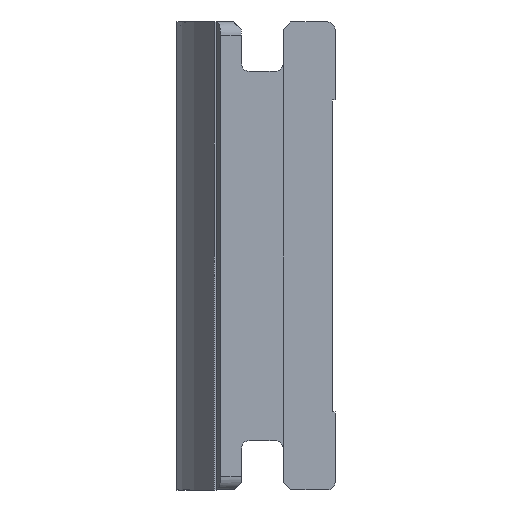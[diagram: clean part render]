
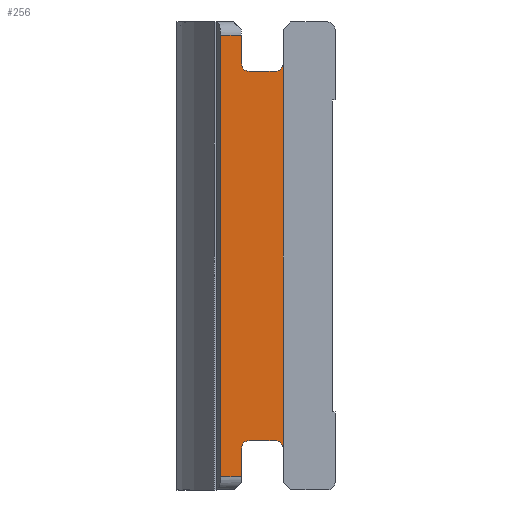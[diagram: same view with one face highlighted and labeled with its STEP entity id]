
A CAD part, left-side view. The second image highlights one B-rep face of the part: STEP entity #256.
In plain terms, the highlighted planar face has unit normal (-1, 0, 0).
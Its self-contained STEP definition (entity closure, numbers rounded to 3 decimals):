
#3 = VERTEX_POINT ( 'NONE', #626 ) ;
#4 = DIRECTION ( 'NONE',  ( -1., 0., 0. ) ) ;
#49 = EDGE_CURVE ( 'NONE', #1063, #823, #507, .T. ) ;
#59 = CARTESIAN_POINT ( 'NONE',  ( 10., 1.9, 7.4 ) ) ;
#68 = DIRECTION ( 'NONE',  ( 0., 0., -1. ) ) ;
#198 = ORIENTED_EDGE ( 'NONE', *, *, #734, .T. ) ;
#210 = VERTEX_POINT ( 'NONE', #59 ) ;
#218 = DIRECTION ( 'NONE',  ( 0., 0., -1. ) ) ;
#231 = DIRECTION ( 'NONE',  ( 0., 0., -1. ) ) ;
#254 = VERTEX_POINT ( 'NONE', #356 ) ;
#256 = ADVANCED_FACE ( 'NONE', ( #491 ), #803, .F. ) ;
#276 = CARTESIAN_POINT ( 'NONE',  ( 10., 3.5, -7.4 ) ) ;
#281 = CIRCLE ( 'NONE', #1294, 0.3 ) ;
#287 = LINE ( 'NONE', #1823, #600 ) ;
#293 = EDGE_CURVE ( 'NONE', #728, #747, #928, .T. ) ;
#297 = LINE ( 'NONE', #1612, #372 ) ;
#346 = CARTESIAN_POINT ( 'NONE',  ( 10., 1.9, -7.4 ) ) ;
#356 = CARTESIAN_POINT ( 'NONE',  ( 10., 4.3, 8.5 ) ) ;
#370 = VECTOR ( 'NONE', #1513, 1000. ) ;
#372 = VECTOR ( 'NONE', #1731, 1000. ) ;
#381 = ORIENTED_EDGE ( 'NONE', *, *, #698, .F. ) ;
#391 = ORIENTED_EDGE ( 'NONE', *, *, #421, .F. ) ;
#405 = LINE ( 'NONE', #965, #1322 ) ;
#421 = EDGE_CURVE ( 'NONE', #3, #254, #297, .T. ) ;
#428 = CIRCLE ( 'NONE', #1598, 0.3 ) ;
#453 = ORIENTED_EDGE ( 'NONE', *, *, #1282, .F. ) ;
#456 = VECTOR ( 'NONE', #1472, 1000. ) ;
#490 = DIRECTION ( 'NONE',  ( 0., 0., -1. ) ) ;
#491 = FACE_OUTER_BOUND ( 'NONE', #1359, .T. ) ;
#507 = LINE ( 'NONE', #892, #1738 ) ;
#544 = CARTESIAN_POINT ( 'NONE',  ( 10., 3.2, -7.1 ) ) ;
#548 = CARTESIAN_POINT ( 'NONE',  ( 10., 3.5, -8.5 ) ) ;
#554 = EDGE_CURVE ( 'NONE', #672, #910, #428, .T. ) ;
#584 = ORIENTED_EDGE ( 'NONE', *, *, #1496, .F. ) ;
#588 = CARTESIAN_POINT ( 'NONE',  ( 10., 2.2, 7.1 ) ) ;
#600 = VECTOR ( 'NONE', #819, 1000. ) ;
#626 = CARTESIAN_POINT ( 'NONE',  ( 10., 4.3, -8.5 ) ) ;
#672 = VERTEX_POINT ( 'NONE', #346 ) ;
#698 = EDGE_CURVE ( 'NONE', #210, #672, #287, .T. ) ;
#728 = VERTEX_POINT ( 'NONE', #276 ) ;
#734 = EDGE_CURVE ( 'NONE', #3, #747, #405, .T. ) ;
#747 = VERTEX_POINT ( 'NONE', #548 ) ;
#756 = CARTESIAN_POINT ( 'NONE',  ( 10., 3.5, 8.7 ) ) ;
#763 = DIRECTION ( 'NONE',  ( 1., 0., 0. ) ) ;
#773 = VECTOR ( 'NONE', #1676, 1000. ) ;
#783 = ORIENTED_EDGE ( 'NONE', *, *, #49, .F. ) ;
#785 = DIRECTION ( 'NONE',  ( -1., 0., 0. ) ) ;
#791 = VERTEX_POINT ( 'NONE', #1590 ) ;
#798 = CARTESIAN_POINT ( 'NONE',  ( 10., 3.5, 7.4 ) ) ;
#803 = PLANE ( 'NONE',  #1313 ) ;
#819 = DIRECTION ( 'NONE',  ( 0., 0., -1. ) ) ;
#823 = VERTEX_POINT ( 'NONE', #588 ) ;
#826 = DIRECTION ( 'NONE',  ( 0., 0., -1. ) ) ;
#855 = EDGE_CURVE ( 'NONE', #1053, #1063, #896, .T. ) ;
#889 = LINE ( 'NONE', #756, #456 ) ;
#892 = CARTESIAN_POINT ( 'NONE',  ( 10., 3.2, 7.1 ) ) ;
#896 = CIRCLE ( 'NONE', #1538, 0.3 ) ;
#910 = VERTEX_POINT ( 'NONE', #1320 ) ;
#928 = LINE ( 'NONE', #1510, #1740 ) ;
#931 = CARTESIAN_POINT ( 'NONE',  ( 10., 1.9, 8.5 ) ) ;
#965 = CARTESIAN_POINT ( 'NONE',  ( 10., 1.9, -8.5 ) ) ;
#1043 = EDGE_CURVE ( 'NONE', #823, #210, #281, .T. ) ;
#1053 = VERTEX_POINT ( 'NONE', #798 ) ;
#1063 = VERTEX_POINT ( 'NONE', #1757 ) ;
#1079 = AXIS2_PLACEMENT_3D ( 'NONE', #1249, #1695, #826 ) ;
#1249 = CARTESIAN_POINT ( 'NONE',  ( 10., 3.2, -7.4 ) ) ;
#1277 = ORIENTED_EDGE ( 'NONE', *, *, #554, .F. ) ;
#1282 = EDGE_CURVE ( 'NONE', #791, #728, #1504, .T. ) ;
#1294 = AXIS2_PLACEMENT_3D ( 'NONE', #1503, #1523, #231 ) ;
#1313 = AXIS2_PLACEMENT_3D ( 'NONE', #1340, #763, #68 ) ;
#1320 = CARTESIAN_POINT ( 'NONE',  ( 10., 2.2, -7.1 ) ) ;
#1322 = VECTOR ( 'NONE', #1573, 1000. ) ;
#1333 = VERTEX_POINT ( 'NONE', #1417 ) ;
#1340 = CARTESIAN_POINT ( 'NONE',  ( 10., 1.9, -29.536 ) ) ;
#1359 = EDGE_LOOP ( 'NONE', ( #584, #1614, #391, #198, #1364, #453, #1608, #1277, #381, #1451, #783, #1677 ) ) ;
#1364 = ORIENTED_EDGE ( 'NONE', *, *, #293, .F. ) ;
#1366 = LINE ( 'NONE', #544, #773 ) ;
#1387 = LINE ( 'NONE', #931, #370 ) ;
#1417 = CARTESIAN_POINT ( 'NONE',  ( 10., 3.5, 8.5 ) ) ;
#1446 = CARTESIAN_POINT ( 'NONE',  ( 10., 3.2, 7.4 ) ) ;
#1451 = ORIENTED_EDGE ( 'NONE', *, *, #1043, .F. ) ;
#1472 = DIRECTION ( 'NONE',  ( 0., 0., -1. ) ) ;
#1492 = DIRECTION ( 'NONE',  ( 0., -1., 0. ) ) ;
#1496 = EDGE_CURVE ( 'NONE', #1333, #1053, #889, .T. ) ;
#1503 = CARTESIAN_POINT ( 'NONE',  ( 10., 2.2, 7.4 ) ) ;
#1504 = CIRCLE ( 'NONE', #1079, 0.3 ) ;
#1510 = CARTESIAN_POINT ( 'NONE',  ( 10., 3.5, -8.7 ) ) ;
#1513 = DIRECTION ( 'NONE',  ( 0., 1., 0. ) ) ;
#1523 = DIRECTION ( 'NONE',  ( -1., 0., 0. ) ) ;
#1538 = AXIS2_PLACEMENT_3D ( 'NONE', #1446, #4, #1749 ) ;
#1573 = DIRECTION ( 'NONE',  ( 0., -1., 0. ) ) ;
#1585 = EDGE_CURVE ( 'NONE', #910, #791, #1366, .T. ) ;
#1590 = CARTESIAN_POINT ( 'NONE',  ( 10., 3.2, -7.1 ) ) ;
#1598 = AXIS2_PLACEMENT_3D ( 'NONE', #1671, #785, #490 ) ;
#1608 = ORIENTED_EDGE ( 'NONE', *, *, #1585, .F. ) ;
#1612 = CARTESIAN_POINT ( 'NONE',  ( 10., 4.3, -29.536 ) ) ;
#1614 = ORIENTED_EDGE ( 'NONE', *, *, #1682, .T. ) ;
#1671 = CARTESIAN_POINT ( 'NONE',  ( 10., 2.2, -7.4 ) ) ;
#1676 = DIRECTION ( 'NONE',  ( 0., 1., 0. ) ) ;
#1677 = ORIENTED_EDGE ( 'NONE', *, *, #855, .F. ) ;
#1682 = EDGE_CURVE ( 'NONE', #1333, #254, #1387, .T. ) ;
#1695 = DIRECTION ( 'NONE',  ( -1., 0., 0. ) ) ;
#1731 = DIRECTION ( 'NONE',  ( 0., 0., 1. ) ) ;
#1738 = VECTOR ( 'NONE', #1492, 1000. ) ;
#1740 = VECTOR ( 'NONE', #218, 1000. ) ;
#1749 = DIRECTION ( 'NONE',  ( 0., 0., -1. ) ) ;
#1757 = CARTESIAN_POINT ( 'NONE',  ( 10., 3.2, 7.1 ) ) ;
#1823 = CARTESIAN_POINT ( 'NONE',  ( 10., 1.9, -29.536 ) ) ;
